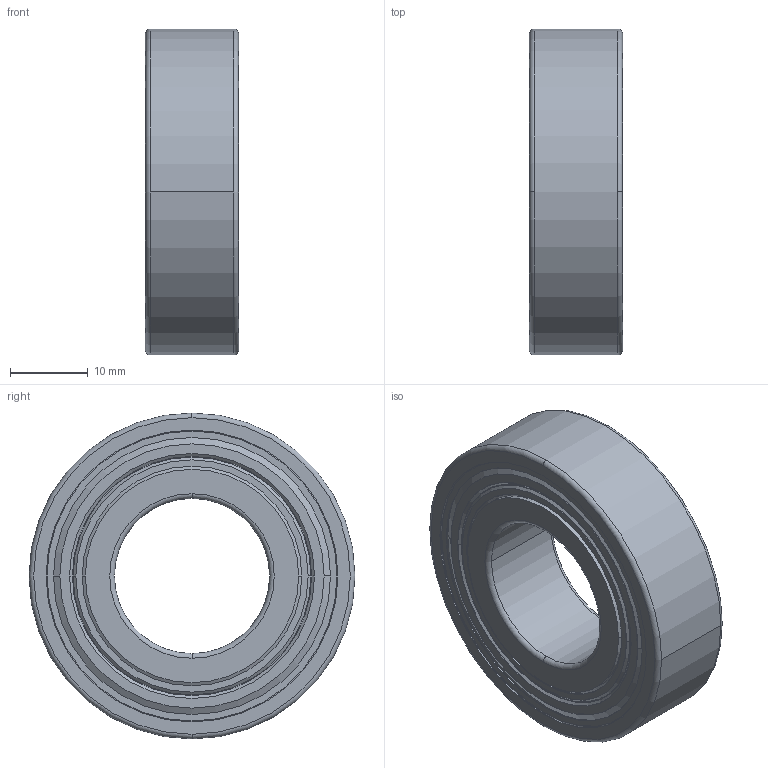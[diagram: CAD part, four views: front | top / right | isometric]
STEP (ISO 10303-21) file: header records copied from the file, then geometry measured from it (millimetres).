
FILE_DESCRIPTION(('STEP AP214'),'1');
FILE_NAME('snr_6004zzc3_0.stp','2024-08-01T10:39:19',('TraceParts'),('TraceParts S.A.'),'Spatial InterOp 3D',' ',' ');
FILE_SCHEMA(('AUTOMOTIVE_DESIGN { 1 0 10303 214 1 1 1 1 }'));
Length unit declared in the file: millimetre
Products named in the file (1): snr_6004zzc3_0_1
Bounding box: 12 x 42 x 42 mm (x, y, z)
Volume: 11199.7 mm3; surface area: 11804.3 mm2
Topology: 5 solids, 5 shells, 118 faces, 264 edges, 172 vertices
Faces by surface type: torus 36, cone 32, plane 26, cylinder 24
Entity records: 3451 total; most frequent: DIRECTION 718, CARTESIAN_POINT 559, ORIENTED_EDGE 528, AXIS2_PLACEMENT_3D 331, EDGE_CURVE 264, CIRCLE 208, VERTEX_POINT 172, EDGE_LOOP 144
